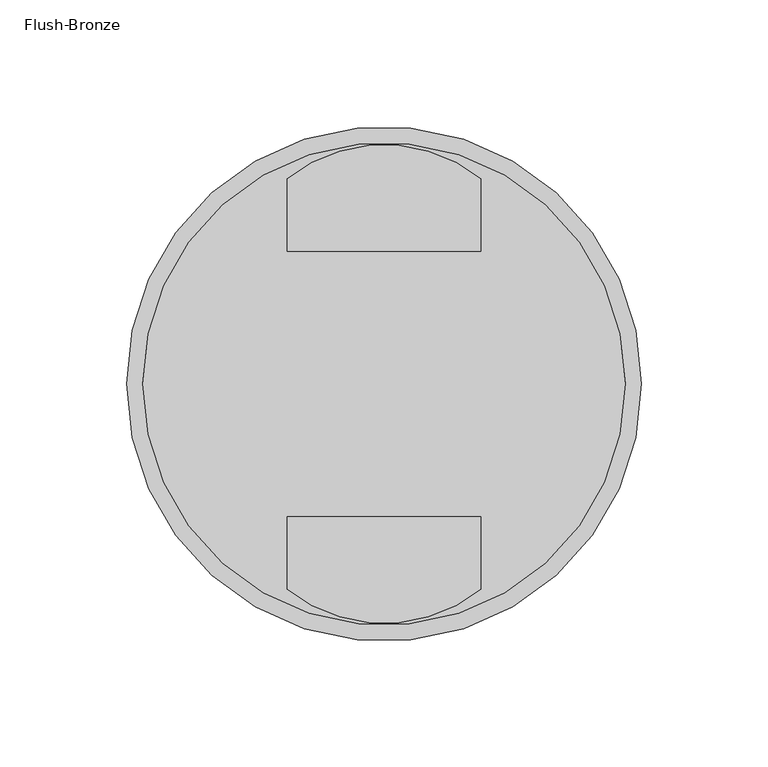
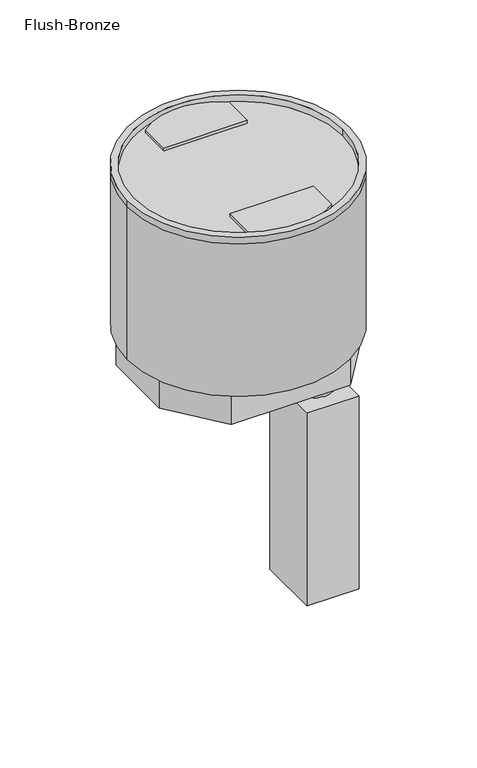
"""IFC4 building model written with IfcOpenShell, lengths in millimetres: proxy geometry, Poke_Thru_Device-Evolution_8AT_Series-Wiremold-Prewired : Flush-Bronze."""

from ifc_helpers import new_model, si_unit, point, frame, frame_2d, origin, origin_with_axes, place, context, project, spatial, polyline, circle_curve, trimmed, segment, composite_curve, outline, extrude, source, transform, mapped, element, save
from ifc_brep_helpers import plane_surface, cylinder_surface, revolved_surface, advanced_brep


def flush_bronze_2731afef(model_context):
    return source(origin(), model_context, "Body", "SolidModel", [
        advanced_brep(
        [(95.25, 0.0, -6.35), (-95.25, 0.0, -6.35), (-101.6, 0.0, -153.67), (101.6, 0.0, -153.67), (101.6, 0.0, -6.35), (-101.6, 0.0, -6.35), (-101.6, 0.0, 0.0), (101.6, 0.0, 0.0), (-95.25, 0.0, 0.0), (95.25, 0.0, 0.0)],
        [
            (0, 1, circle_curve(frame((0.0, 0.0, -6.35), z_axis=(0.0, 0.0, 1.0), x_axis=(1.0, 0.0, 0.0)), 95.25)),
            (1, 0, circle_curve(frame((0.0, 0.0, -6.35), z_axis=(0.0, 0.0, 1.0), x_axis=(1.0, 0.0, 0.0)), 95.25)),
            (2, 3, circle_curve(frame((0.0, 0.0, -153.67), z_axis=(0.0, 0.0, -1.0), x_axis=(1.0, 0.0, 0.0)), 101.6)),
            (3, 2, circle_curve(frame((0.0, 0.0, -153.67), z_axis=(0.0, 0.0, -1.0), x_axis=(1.0, 0.0, 0.0)), 101.6)),
            (3, 4),
            (4, 5, circle_curve(frame((0.0, 0.0, -6.35), z_axis=(0.0, 0.0, -1.0), x_axis=(1.0, 0.0, 0.0)), 101.6)),
            (5, 2),
            (5, 4, circle_curve(frame((0.0, 0.0, -6.35), z_axis=(0.0, 0.0, -1.0), x_axis=(1.0, 0.0, 0.0)), 101.6)),
            (6, 7, circle_curve(origin_with_axes(), 101.6)),
            (7, 6, circle_curve(origin_with_axes(), 101.6)),
            (8, 9, circle_curve(frame((0.0, 0.0, 0.0), z_axis=(0.0, 0.0, -1.0), x_axis=(1.0, 0.0, 0.0)), 95.25)),
            (9, 8, circle_curve(frame((0.0, 0.0, 0.0), z_axis=(0.0, 0.0, -1.0), x_axis=(1.0, 0.0, 0.0)), 95.25)),
            (6, 5),
            (4, 7),
            (8, 1),
            (0, 9),
        ],
        [
            plane_surface(frame((101.6, 0.0, -6.35), z_axis=(0.0, 0.0, 1.0), x_axis=(0.0, 1.0, 0.0))),
            plane_surface(frame((101.6, 0.0, -153.67), z_axis=(0.0, 0.0, -1.0), x_axis=(0.0, -1.0, 0.0))),
            cylinder_surface(frame((0.0, 0.0, -153.67), z_axis=(0.0, 0.0, 1.0), x_axis=(1.0, 0.0, 0.0)), 101.6),
            plane_surface(frame((101.6, 0.0, 0.0), z_axis=(0.0, 0.0, 1.0), x_axis=(0.0, 1.0, 0.0))),
            cylinder_surface(frame((0.0, 0.0, -6.35), z_axis=(0.0, 0.0, 1.0), x_axis=(1.0, 0.0, 0.0)), 101.6),
            revolved_surface(polyline([(95.25, 0.0, -6.35), (95.25, 0.0, 0.0)]), (0.0, 0.0, 0.0), (0.0, 0.0, -1.0)),
        ],
        [
            (0, [[1, 2]]),
            (1, [[3, 4]]),
            (2, [[-4, 5, 6, 7]]),
            (2, [[-3, -7, 8, -5]]),
            (3, [[9, 10], [11, 12]]),
            (4, [[-9, 13, -6, 14]]),
            (4, [[-10, -14, -8, -13]]),
            (5, [[-11, 15, -1, 16]]),
            (5, [[-12, -16, -2, -15]]),
        ],
    ),
        extrude(outline(polyline([(54.61, 82.55), (92.075, 34.036), (92.075, -34.036), (54.61, -82.55), (-54.61, -82.55), (-92.075, -34.036), (-92.075, 34.036), (-54.61, 82.55), (54.61, 82.55)])), frame((0.0, 0.0, -182.88), z_axis=(0.0, 0.0, 1.0), x_axis=(1.0, 0.0, 0.0)), (0.0, 0.0, 1.0), 29.21),
        extrude(outline(composite_curve([segment(trimmed(circle_curve(frame_2d((69.469, -0.229668)), 11.1252), [point((58.3438, -0.229668))], [point((80.5942, -0.229668))], False, "CARTESIAN"), True, "CONTINUOUS"), segment(trimmed(circle_curve(frame_2d((69.469, -0.229668)), 11.1252), [point((80.5942, -0.229668))], [point((58.3438, -0.229668))], False, "CARTESIAN"), True, "CONTINUOUS")], self_intersect=False)), frame((0.0, 0.0, -218.7956), z_axis=(0.0, 0.0, 1.0), x_axis=(1.0, 0.0, 0.0)), (0.0, 0.0, 1.0), 35.9156),
        extrude(outline(composite_curve([segment(trimmed(circle_curve(frame_2d((69.469, -0.229668)), 16.0528), [point((53.4162, -0.229668))], [point((85.5218, -0.229668))], False, "CARTESIAN"), True, "CONTINUOUS"), segment(trimmed(circle_curve(frame_2d((69.469, -0.229668)), 16.0528), [point((85.5218, -0.229668))], [point((53.4162, -0.229668))], False, "CARTESIAN"), True, "CONTINUOUS")], self_intersect=False)), frame((0.0, 0.0, -239.1156), z_axis=(0.0, 0.0, 1.0), x_axis=(1.0, 0.0, 0.0)), (0.0, 0.0, 1.0), 20.32),
        extrude(outline(polyline([(93.2688, 28.980332), (93.2688, -29.439668), (45.6692, -29.439668), (45.6692, 28.980332), (93.2688, 28.980332)])), frame((0.0, 0.0, -425.45), z_axis=(0.0, 0.0, 1.0), x_axis=(1.0, 0.0, 0.0)), (0.0, 0.0, 1.0), 186.3344),
        extrude(outline(composite_curve([segment(polyline([(-38.1, -52.3875), (38.1, -52.3875), (38.1, -80.9920196)]), True, "CONTINUOUS"), segment(trimmed(circle_curve(frame_2d((0.0, -34.036)), 60.4688166), [point((38.1, -80.9920196))], [point((-38.1, -80.9920196))], False, "CARTESIAN"), True, "CONTINUOUS"), segment(polyline([(-38.1, -80.9920196), (-38.1, -52.3875)]), True, "CONTINUOUS")], self_intersect=False)), frame((0.0, 0.0, -6.35), z_axis=(0.0, 0.0, 1.0), x_axis=(1.0, 0.0, 0.0)), (0.0, 0.0, 1.0), 3.175),
        extrude(outline(composite_curve([segment(polyline([(-38.1, 52.3875), (-38.1, 80.9920196)]), True, "CONTINUOUS"), segment(trimmed(circle_curve(frame_2d((0.0, 34.036)), 60.4688166), [point((-38.1, 80.9920196))], [point((38.1, 80.9920196))], False, "CARTESIAN"), True, "CONTINUOUS"), segment(polyline([(38.1, 80.9920196), (38.1, 52.3875), (-38.1, 52.3875)]), True, "CONTINUOUS")], self_intersect=False)), frame((0.0, 0.0, -6.35), z_axis=(0.0, 0.0, 1.0), x_axis=(1.0, 0.0, 0.0)), (0.0, 0.0, 1.0), 3.175),
    ])


if __name__ == "__main__":
    model = new_model("IFC4")
    model_context = context("Model", 3, world=origin())
    ifc_project = project(units=[si_unit("LENGTHUNIT", "METRE", prefix="MILLI")], contexts=[model_context])
    site = spatial("IfcSite", under=ifc_project)
    building = spatial("IfcBuilding", under=site)
    placement = place(None, origin())
    flush_bronze_shape = flush_bronze_2731afef(model_context)
    element("IfcBuildingElementProxy", 1, Name="Poke_Thru_Device-Evolution_8AT_Series-Wiremold-Prewired : Flush-Bronze", ObjectType="Poke_Thru_Device-Evolution_8AT_Series-Wiremold-Prewired : Flush-Bronze", at=placement, inside=building, context=model_context, shape_type="MappedRepresentation", body=[
        mapped(flush_bronze_shape, transform((0.0, 0.0, 0.0), x_axis=(1.0, 0.0, 0.0), y_axis=(0.0, 1.0, 0.0), z_axis=(0.0, 0.0, 1.0))),
    ])
    save(model, "model.ifc")
